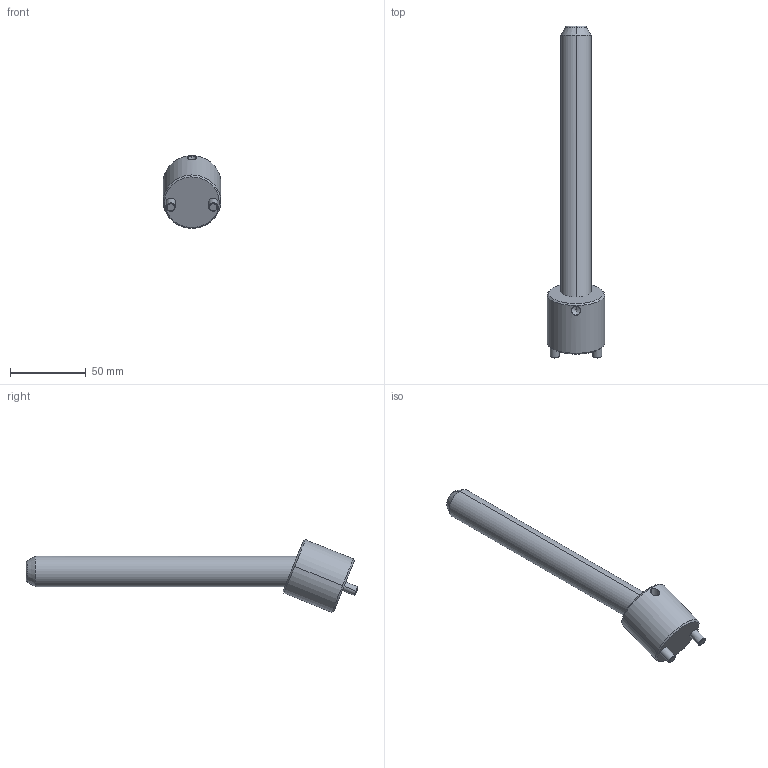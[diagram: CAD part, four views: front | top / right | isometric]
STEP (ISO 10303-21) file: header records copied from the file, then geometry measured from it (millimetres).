
FILE_DESCRIPTION(('CATIA V5 STEP Exchange'),'2;1');
FILE_NAME('C:\Users\Raffaele\Desktop\3D BOLEX\3D FILES CF BOLEX\19-INCLINED ASSEMBLY REF_CI\CI2220175.stp','2019-06-24T06:50:59+00:00',('none'),('none'),'CATIA Version 5 Release 20 GA (IN-10)','CATIA V5 STEP AP203','none');
FILE_SCHEMA(('CONFIG_CONTROL_DESIGN'));
Length unit declared in the file: millimetre
Products named in the file (1): CI2220175
Assembly tree (2 placements, depth 2):
  CI2220175
    #58
    #572
Bounding box: 38 x 219.16 x 47.97 mm (x, y, z)
Volume: 95114.9 mm3; surface area: 22116.4 mm2
Topology: 2 solids, 2 shells, 39 faces, 82 edges, 47 vertices
Faces by surface type: cone 14, cylinder 14, plane 7, torus 4
Entity records: 1512 total; most frequent: CARTESIAN_POINT 655, ORIENTED_EDGE 160, DIRECTION 144, EDGE_CURVE 80, AXIS2_PLACEMENT_3D 71, VERTEX_POINT 47, EDGE_LOOP 43, ADVANCED_FACE 39
